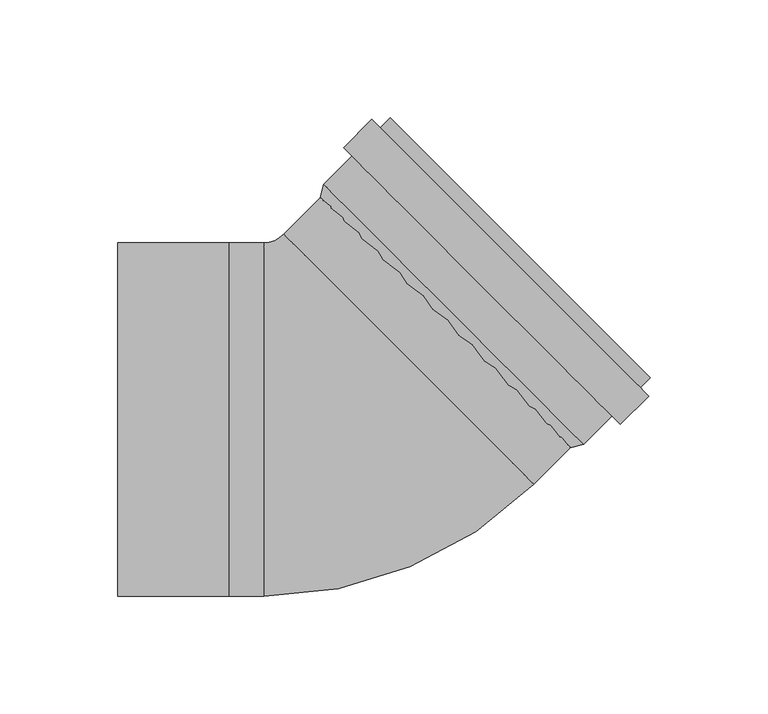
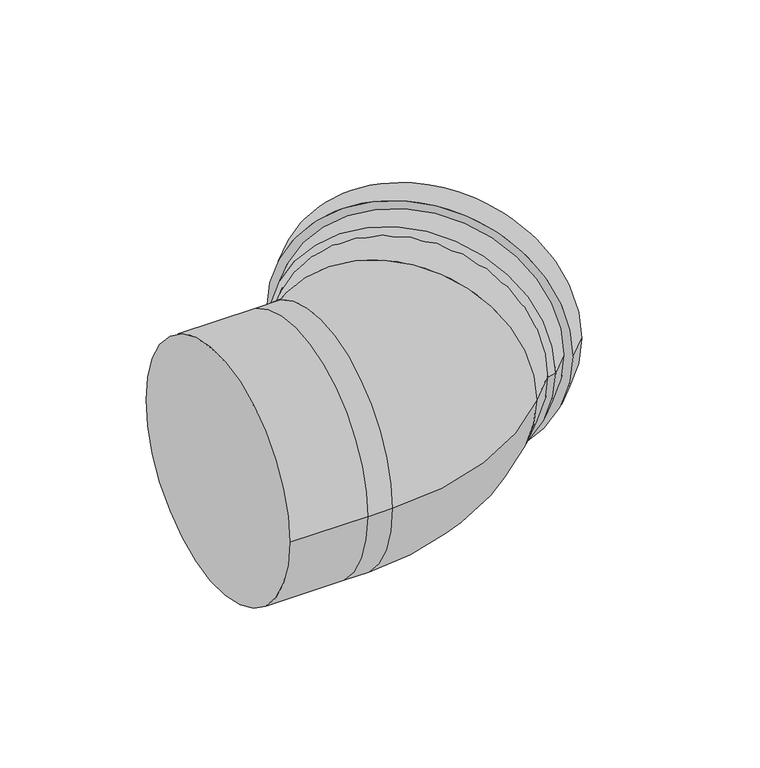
"""IFC4 building model written with IfcOpenShell, lengths in millimetres: duct fitting geometry, RSFen_DUF_UN_Twinline Bend_M&G : ø130 - 150 - 200."""

from ifc_helpers import new_model, si_unit, point, frame, origin, origin_2d, place, context, project, spatial, polyline, circle_curve, ellipse_curve, trimmed, segment, composite_curve, outline, extrude, source, transform, mapped, element, save
from ifc_brep_helpers import plane_surface, cylinder_surface, revolved_surface, advanced_brep


def duct_fitting_113a3a52(model_context):
    return source(origin(), model_context, "Body", "SolidModel", [
        advanced_brep(
        [(-98.0, 75.0, 0.0), (-98.0, -75.0, 0.0), (-51.0, 75.0, 0.0), (-51.0, -75.0, 0.0), (-36.0365799, -75.0, 0.0), (-36.0365799, 75.0, 0.0), (78.5147186, -27.5512986, 0.0), (-27.5512986, 78.5147186, 0.0), (97.5807358, -8.4852814, 0.0), (44.5477272, 44.5477272, 75.0), (-8.4852814, 97.5807358, 0.0), (44.5477272, 44.5477272, -75.0), (45.9619408, 45.9619408, -75.0), (45.9619408, 45.9619408, 75.0)],
        [
            (0, 1, circle_curve(frame((-98.0, 0.0, 0.0), z_axis=(-1.0, 0.0, 0.0), x_axis=(0.0, -1.0, 0.0)), 75.0)),
            (1, 0, circle_curve(frame((-98.0, 0.0, 0.0), z_axis=(-1.0, 0.0, 0.0), x_axis=(0.0, -1.0, 0.0)), 75.0)),
            (0, 2),
            (2, 3, circle_curve(frame((-51.0, 0.0, 0.0), z_axis=(-1.0, 0.0, 0.0), x_axis=(0.0, -1.0, 0.0)), 75.0)),
            (3, 1),
            (3, 2, circle_curve(frame((-51.0, 0.0, 0.0), z_axis=(-1.0, 0.0, 0.0), x_axis=(0.0, -1.0, 0.0)), 75.0)),
            (3, 4),
            (4, 5, circle_curve(frame((-36.0365799, 0.0, 0.0), z_axis=(-1.0, 0.0, 0.0), x_axis=(0.0, 1.0, 0.0)), 75.0)),
            (5, 2),
            (5, 4, circle_curve(frame((-36.0365799, 0.0, 0.0), z_axis=(-1.0, 0.0, 0.0), x_axis=(0.0, 1.0, 0.0)), 75.0)),
            (4, 6, circle_curve(frame((-36.0365799, 87.0, 0.0), z_axis=(0.0, 0.0, 1.0), x_axis=(0.0, -1.0, 0.0)), 162.0)),
            (6, 7, circle_curve(frame((25.48171, 25.48171, 0.0), z_axis=(-0.7071067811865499, -0.7071067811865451, 0.0), x_axis=(-0.7071067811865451, 0.7071067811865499, 0.0)), 75.0)),
            (7, 5, circle_curve(frame((-36.0365799, 87.0, 0.0), z_axis=(0.0, 0.0, -1.0), x_axis=(0.0, -1.0, 0.0)), 12.0)),
            (7, 6, circle_curve(frame((25.48171, 25.48171, 0.0), z_axis=(-0.707106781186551, -0.707106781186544, 0.0), x_axis=(-0.707106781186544, 0.707106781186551, 0.0)), 75.0)),
            (6, 8),
            (8, 9, circle_curve(frame((44.5477272, 44.5477272, 0.0), z_axis=(-0.707106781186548, -0.707106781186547, 0.0), x_axis=(-0.707106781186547, 0.707106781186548, 0.0)), 75.0)),
            (9, 10, circle_curve(frame((44.5477272, 44.5477272, 0.0), z_axis=(-0.707106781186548, -0.707106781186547, 0.0), x_axis=(-0.707106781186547, 0.707106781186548, 0.0)), 75.0)),
            (10, 7),
            (10, 11, circle_curve(frame((44.5477272, 44.5477272, 0.0), z_axis=(-0.707106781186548, -0.707106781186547, 0.0), x_axis=(-0.707106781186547, 0.707106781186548, 0.0)), 75.0)),
            (11, 8, circle_curve(frame((44.5477272, 44.5477272, 0.0), z_axis=(-0.707106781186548, -0.707106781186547, 0.0), x_axis=(-0.707106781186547, 0.707106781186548, 0.0)), 75.0)),
            (12, 13, circle_curve(frame((45.9619408, 45.9619408, 0.0), z_axis=(0.707106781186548, 0.707106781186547, 0.0), x_axis=(0.0, 0.0, 1.0)), 75.0)),
            (13, 12, circle_curve(frame((45.9619408, 45.9619408, 0.0), z_axis=(0.707106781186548, 0.707106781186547, 0.0), x_axis=(0.0, 0.0, 1.0)), 75.0)),
            (12, 11),
            (9, 13),
        ],
        [
            plane_surface(frame((-98.0, -75.0, 0.0), z_axis=(-1.0, 0.0, 0.0), x_axis=(0.0, 0.0, 1.0))),
            cylinder_surface(frame((-51.0, 0.0, 0.0), z_axis=(-1.0, 0.0, 0.0), x_axis=(0.0, -1.0, 0.0)), 75.0),
            cylinder_surface(frame((-51.0, 0.0, 0.0), z_axis=(-1.0, 0.0, 0.0), x_axis=(0.0, 1.0, 0.0)), 75.0),
            revolved_surface(trimmed(ellipse_curve(frame((-36.0365799, 0.0, 0.0), z_axis=(-1.0, 0.0, 0.0), x_axis=(0.0, 1.0, 0.0)), 75.0, 75.0), [point((-36.0365799, -75.0, 0.0))], [point((-36.0365799, 75.0, 0.0))], True, "CARTESIAN"), (-36.0365799, 87.0, 0.0), (0.0, 0.0, 1.0)),
            revolved_surface(trimmed(ellipse_curve(frame((-36.0365799, 0.0, 0.0), z_axis=(-1.0, 0.0, 0.0), x_axis=(0.0, 1.0, 0.0)), 75.0, 75.0), [point((-36.0365799, 75.0, 0.0))], [point((-36.0365799, -75.0, 0.0))], True, "CARTESIAN"), (-36.0365799, 87.0, 0.0), (0.0, 0.0, 1.0)),
            cylinder_surface(frame((25.48171, 25.48171, 0.0), z_axis=(-0.707106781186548, -0.707106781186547, 0.0), x_axis=(-0.707106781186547, 0.707106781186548, 0.0)), 75.0),
            plane_surface(frame((45.9619408, 45.9619408, 75.0), z_axis=(0.707106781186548, 0.707106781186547, 0.0), x_axis=(0.707106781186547, -0.707106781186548, 0.0))),
            cylinder_surface(frame((44.5477272, 44.5477272, 0.0), z_axis=(0.707106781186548, 0.707106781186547, 0.0), x_axis=(0.0, 0.0, 1.0)), 75.0),
        ],
        [
            (0, [[1, 2]]),
            (1, [[-1, 3, 4, 5]]),
            (1, [[-2, -5, 6, -3]]),
            (2, [[7, 8, 9, -6]]),
            (2, [[-7, -4, -9, 10]]),
            (3, [[-8, 11, 12, 13]]),
            (4, [[-10, -13, 14, -11]]),
            (5, [[-12, 15, 16, 17, 18]]),
            (5, [[-14, -18, 19, 20, -15]]),
            (6, [[21, 22]]),
            (7, [[-21, 23, -19, -17, 24]]),
            (7, [[-22, -24, -16, -20, -23]]),
        ],
    ),
        extrude(outline(composite_curve([segment(trimmed(circle_curve(origin_2d(), 83.0), [point((82.9999999, 0.0))], [point((-82.9999999, 0.0))], False, "CARTESIAN"), True, "CONTINUOUS"), segment(trimmed(circle_curve(origin_2d(), 83.0), [point((-82.9999999, 0.0))], [point((82.9999999, 0.0))], False, "CARTESIAN"), True, "CONTINUOUS")], self_intersect=False), holes=[composite_curve([segment(trimmed(circle_curve(origin_2d(), 78.0), [point((-78.0, 0.0))], [point((78.0, 0.0))], True, "CARTESIAN"), True, "CONTINUOUS"), segment(trimmed(circle_curve(origin_2d(), 78.0), [point((78.0, 0.0))], [point((-78.0, 0.0))], True, "CARTESIAN"), True, "CONTINUOUS")], self_intersect=False)]), frame((56.5685425, 56.5685425, 0.0), z_axis=(0.707106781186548, 0.707106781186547, 0.0), x_axis=(0.707106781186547, -0.707106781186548, 0.0)), (0.0, 0.0, 1.0), 17.0),
        advanced_brep(
        [(-10.6066017, 99.7020561, 0.0), (99.7020561, -10.6066017, 0.0), (127.9863274, 17.6776695, 0.0), (17.6776695, 127.9863274, 0.0), (-12.0208153, 94.0452019, 0.0), (94.0452019, -12.0208153, 0.0), (19.7989899, 125.8650071, 0.0), (125.8650071, 19.7989899, 0.0)],
        [
            (0, 1, circle_curve(frame((44.5477272, 44.5477272, 0.0), z_axis=(0.707106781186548, 0.707106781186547, 0.0), x_axis=(0.707106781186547, -0.707106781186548, 0.0)), 78.0)),
            (1, 2),
            (2, 3, circle_curve(frame((72.8319985, 72.8319985, 0.0), z_axis=(-0.707106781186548, -0.707106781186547, 0.0), x_axis=(0.707106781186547, -0.707106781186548, 0.0)), 78.0)),
            (3, 0),
            (4, 5, circle_curve(frame((41.0121933, 41.0121933, 0.0), z_axis=(0.707106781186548, 0.707106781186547, 0.0), x_axis=(0.707106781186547, -0.707106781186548, 0.0)), 75.0)),
            (5, 1),
            (0, 4),
            (6, 7, circle_curve(frame((72.8319985, 72.8319985, 0.0), z_axis=(0.707106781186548, 0.707106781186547, 0.0), x_axis=(0.707106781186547, -0.707106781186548, 0.0)), 75.0)),
            (7, 5),
            (4, 6),
            (2, 3, circle_curve(frame((72.8319985, 72.8319985, 0.0), z_axis=(0.707106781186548, 0.707106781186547, 0.0), x_axis=(-0.707106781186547, 0.707106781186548, 0.0)), 78.0)),
            (6, 7, circle_curve(frame((72.8319985, 72.8319985, 0.0), z_axis=(-0.707106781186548, -0.707106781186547, 0.0), x_axis=(-0.707106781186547, 0.707106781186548, 0.0)), 75.0)),
            (1, 0, circle_curve(frame((44.5477272, 44.5477272, 0.0), z_axis=(0.707106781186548, 0.707106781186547, 0.0), x_axis=(-0.707106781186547, 0.707106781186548, 0.0)), 78.0)),
            (5, 4, circle_curve(frame((41.0121933, 41.0121933, 0.0), z_axis=(0.707106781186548, 0.707106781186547, 0.0), x_axis=(-0.707106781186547, 0.707106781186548, 0.0)), 75.0)),
        ],
        [
            cylinder_surface(frame((44.5477272, 44.5477272, 0.0), z_axis=(-0.707106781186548, -0.707106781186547, 0.0), x_axis=(0.707106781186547, -0.707106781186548, 0.0)), 78.0),
            revolved_surface(polyline([(99.7020561, -10.6066017, 0.0), (94.0452019, -12.0208153, 0.0)]), (44.5477272, 44.5477272, 0.0), (-0.707106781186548, -0.707106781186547, 0.0)),
            revolved_surface(polyline([(94.04520188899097, -12.020815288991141, 0.0), (125.86500708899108, 19.798989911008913, 0.0)]), (44.5477272, 44.5477272, 0.0), (-0.707106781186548, -0.707106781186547, 0.0)),
            plane_surface(frame((72.8319985, 72.8319985, 0.0), z_axis=(0.707106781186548, 0.707106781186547, 0.0), x_axis=(-0.707106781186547, 0.707106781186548, 0.0))),
            cylinder_surface(frame((44.5477272, 44.5477272, 0.0), z_axis=(-0.707106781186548, -0.707106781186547, 0.0), x_axis=(-0.707106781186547, 0.707106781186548, 0.0)), 78.0),
            revolved_surface(polyline([(-10.6066017, 99.7020561, 0.0), (-12.0208153, 94.0452019, 0.0)]), (44.5477272, 44.5477272, 0.0), (-0.707106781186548, -0.707106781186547, 0.0)),
            revolved_surface(polyline([(-12.020815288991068, 94.04520188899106, 0.0), (19.79898991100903, 125.8650070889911, 0.0)]), (44.5477272, 44.5477272, 0.0), (-0.707106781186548, -0.707106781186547, 0.0)),
        ],
        [
            (0, [[1, 2, 3, 4]]),
            (1, [[5, 6, -1, 7]]),
            (2, [[8, 9, -5, 10]]),
            (3, [[11, -3], [12, -8]]),
            (4, [[13, -4, -11, -2]]),
            (5, [[14, -7, -13, -6]]),
            (6, [[-12, -10, -14, -9]]),
        ],
    ),
    ])


if __name__ == "__main__":
    model = new_model("IFC4")
    model_context = context("Model", 3, world=origin())
    ifc_project = project(units=[si_unit("LENGTHUNIT", "METRE", prefix="MILLI")], contexts=[model_context])
    site = spatial("IfcSite", under=ifc_project)
    building = spatial("IfcBuilding", under=site)
    placement = place(None, origin())
    duct_fitting_shape = duct_fitting_113a3a52(model_context)
    element("IfcDuctFitting", 1, ObjectType="RSFen_DUF_UN_Twinline Bend_M&G : ø130 - 150 - 200", at=placement, inside=building, context=model_context, shape_type="MappedRepresentation", body=[
        mapped(duct_fitting_shape, transform((0.0, 0.0, 0.0), x_axis=(1.0, 0.0, 0.0), y_axis=(0.0, 1.0, 0.0), z_axis=(0.0, 0.0, 1.0))),
    ])
    save(model, "model.ifc")
